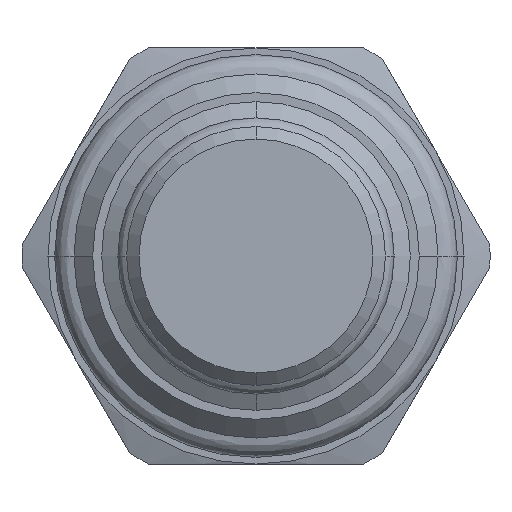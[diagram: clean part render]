
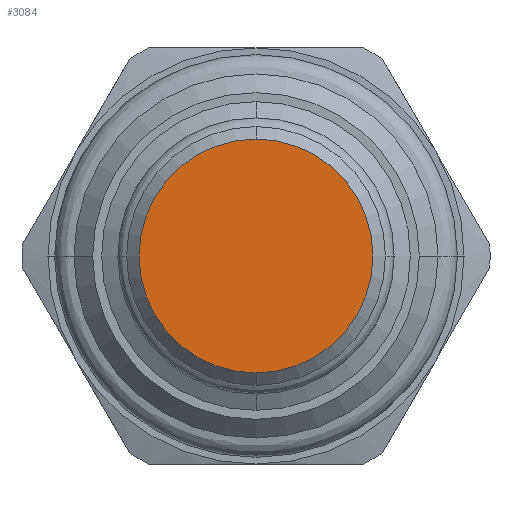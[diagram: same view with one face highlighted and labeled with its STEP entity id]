
A CAD part, front view. The second image highlights one B-rep face of the part: STEP entity #3084.
In plain terms, the highlighted planar face has unit normal (0, -1, 0).
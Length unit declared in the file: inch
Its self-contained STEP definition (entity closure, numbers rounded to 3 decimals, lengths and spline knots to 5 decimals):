
#941=CARTESIAN_POINT('',(0.,-1.253,0.));
#942=DIRECTION('',(0.,1.,0.));
#943=DIRECTION('',(0.,0.,1.));
#944=AXIS2_PLACEMENT_3D('',#941,#942,#943);
#951=CARTESIAN_POINT('',(0.,-1.253,0.));
#952=DIRECTION('',(0.,1.,0.));
#953=DIRECTION('',(0.,0.,-1.));
#954=AXIS2_PLACEMENT_3D('',#951,#952,#953);
#1523=CARTESIAN_POINT('',(0.,-1.253,0.281));
#1524=CARTESIAN_POINT('',(0.,-1.253,-0.281));
#1525=VERTEX_POINT('',#1523);
#1526=VERTEX_POINT('',#1524);
#3074=CARTESIAN_POINT('',(0.,-1.253,0.));
#3075=DIRECTION('',(0.,-1.,0.));
#3076=DIRECTION('',(0.,0.,1.));
#3077=AXIS2_PLACEMENT_3D('',#3074,#3075,#3076);
#3078=PLANE('',#3077);
#3080=ORIENTED_EDGE('',*,*,#3079,.T.);
#3081=ORIENTED_EDGE('',*,*,#3064,.T.);
#3082=EDGE_LOOP('',(#3080,#3081));
#3083=FACE_OUTER_BOUND('',#3082,.F.);
#3084=ADVANCED_FACE('',(#3083),#3078,.T.);
#945=CIRCLE('',#944,0.281);
#955=CIRCLE('',#954,0.281);
#3064=EDGE_CURVE('',#1525,#1526,#945,.T.);
#3079=EDGE_CURVE('',#1526,#1525,#955,.T.);
